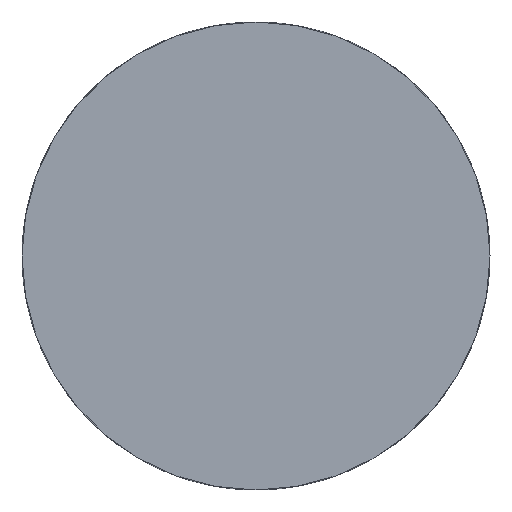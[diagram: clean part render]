
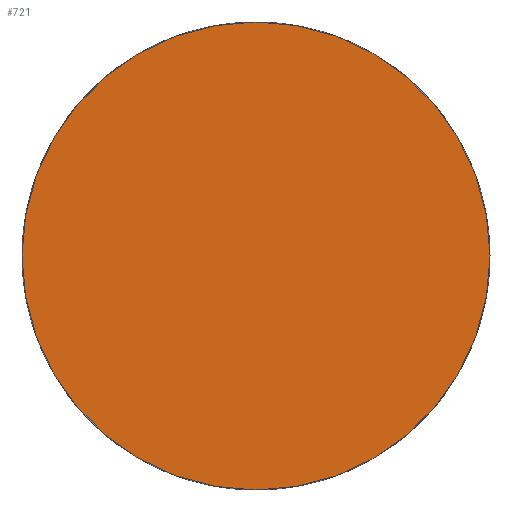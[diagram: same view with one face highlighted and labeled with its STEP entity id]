
A CAD part, left-side view. The second image highlights one B-rep face of the part: STEP entity #721.
In plain terms, the highlighted planar face has unit normal (-1, 0, 0).
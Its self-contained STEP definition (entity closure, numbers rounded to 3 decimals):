
#721 = ADVANCED_FACE( '', ( #1476 ), #1477, .F. );
#1476 = FACE_OUTER_BOUND( '', #2261, .T. );
#1477 = PLANE( '', #2262 );
#2261 = EDGE_LOOP( '', ( #4627 ) );
#2262 = AXIS2_PLACEMENT_3D( '', #4628, #4629, #4630 );
#4627 = ORIENTED_EDGE( '', *, *, #5764, .F. );
#4628 = CARTESIAN_POINT( '', ( 0., 0., 0. ) );
#4629 = DIRECTION( '', ( 1., 0., 0. ) );
#4630 = DIRECTION( '', ( 0., 1., 0. ) );
#5764 = EDGE_CURVE( '', #7282, #7282, #7283, .T. );
#7282 = VERTEX_POINT( '', #9199 );
#7283 = CIRCLE( '', #9200, 14.9 );
#9199 = CARTESIAN_POINT( '', ( 0., 14.9, 0. ) );
#9200 = AXIS2_PLACEMENT_3D( '', #10777, #10778, #10779 );
#10777 = CARTESIAN_POINT( '', ( 0., 0., 0. ) );
#10778 = DIRECTION( '', ( 1., 0., 0. ) );
#10779 = DIRECTION( '', ( 0., 1., 0. ) );
